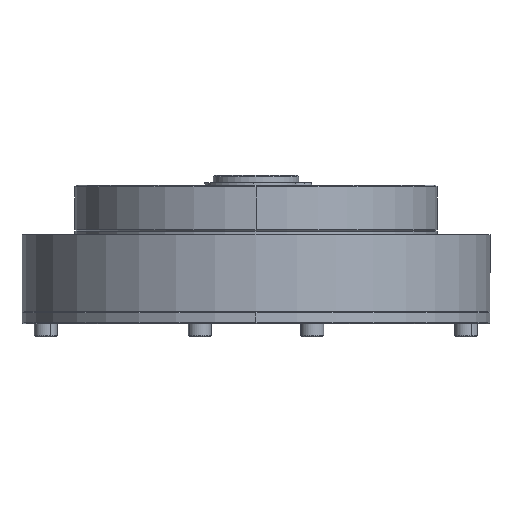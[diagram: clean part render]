
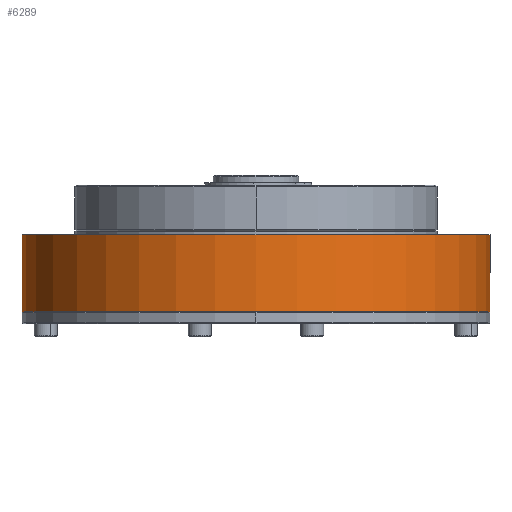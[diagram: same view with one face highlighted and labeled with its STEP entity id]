
A CAD part, left-side view. The second image highlights one B-rep face of the part: STEP entity #6289.
In plain terms, the highlighted cylindrical face has radius 71 mm (diameter 142 mm), a partial arc.
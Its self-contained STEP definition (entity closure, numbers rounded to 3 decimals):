
#359 = CIRCLE ( 'NONE', #10672, 71. ) ;
#1024 = DIRECTION ( 'NONE',  ( 0., 1., 0. ) ) ;
#1070 = DIRECTION ( 'NONE',  ( 0., 0., -1. ) ) ;
#1072 = LINE ( 'NONE', #3844, #1219 ) ;
#1130 = CYLINDRICAL_SURFACE ( 'NONE', #4484, 71. ) ;
#1142 = CARTESIAN_POINT ( 'NONE',  ( -22.001, 8.329, 80.1 ) ) ;
#1219 = VECTOR ( 'NONE', #4012, 1000. ) ;
#1672 = DIRECTION ( 'NONE',  ( 0., -1., 0. ) ) ;
#1973 = EDGE_CURVE ( 'NONE', #2282, #4675, #6143, .T. ) ;
#2031 = CARTESIAN_POINT ( 'NONE',  ( -22.001, 79.329, 103.5 ) ) ;
#2174 = AXIS2_PLACEMENT_3D ( 'NONE', #7991, #8006, #8090 ) ;
#2282 = VERTEX_POINT ( 'NONE', #2031 ) ;
#2346 = EDGE_CURVE ( 'NONE', #6104, #7641, #359, .T. ) ;
#2572 = EDGE_CURVE ( 'NONE', #6104, #4675, #6410, .T. ) ;
#2701 = CARTESIAN_POINT ( 'NONE',  ( -22.001, 8.329, 80.1 ) ) ;
#3740 = EDGE_CURVE ( 'NONE', #7641, #2282, #1072, .T. ) ;
#3808 = DIRECTION ( 'NONE',  ( 0., 0., 1. ) ) ;
#3844 = CARTESIAN_POINT ( 'NONE',  ( -22.001, 79.329, 80.1 ) ) ;
#4012 = DIRECTION ( 'NONE',  ( 0., 0., 1. ) ) ;
#4218 = DIRECTION ( 'NONE',  ( 0., 0., 1. ) ) ;
#4343 = CARTESIAN_POINT ( 'NONE',  ( -22.001, -62.671, 80.1 ) ) ;
#4484 = AXIS2_PLACEMENT_3D ( 'NONE', #2701, #3808, #1672 ) ;
#4603 = EDGE_LOOP ( 'NONE', ( #10292, #10809, #8971, #10566 ) ) ;
#4675 = VERTEX_POINT ( 'NONE', #8368 ) ;
#6104 = VERTEX_POINT ( 'NONE', #9996 ) ;
#6143 = CIRCLE ( 'NONE', #2174, 71. ) ;
#6289 = ADVANCED_FACE ( 'NONE', ( #8014 ), #1130, .T. ) ;
#6410 = LINE ( 'NONE', #4343, #6833 ) ;
#6833 = VECTOR ( 'NONE', #4218, 1000. ) ;
#7226 = CARTESIAN_POINT ( 'NONE',  ( -22.001, 79.329, 80.1 ) ) ;
#7641 = VERTEX_POINT ( 'NONE', #7226 ) ;
#7991 = CARTESIAN_POINT ( 'NONE',  ( -22.001, 8.329, 103.5 ) ) ;
#8006 = DIRECTION ( 'NONE',  ( 0., 0., 1. ) ) ;
#8014 = FACE_OUTER_BOUND ( 'NONE', #4603, .T. ) ;
#8090 = DIRECTION ( 'NONE',  ( 0., -1., 0. ) ) ;
#8368 = CARTESIAN_POINT ( 'NONE',  ( -22.001, -62.671, 103.5 ) ) ;
#8971 = ORIENTED_EDGE ( 'NONE', *, *, #2572, .T. ) ;
#9996 = CARTESIAN_POINT ( 'NONE',  ( -22.001, -62.671, 80.1 ) ) ;
#10292 = ORIENTED_EDGE ( 'NONE', *, *, #3740, .F. ) ;
#10566 = ORIENTED_EDGE ( 'NONE', *, *, #1973, .F. ) ;
#10672 = AXIS2_PLACEMENT_3D ( 'NONE', #1142, #1070, #1024 ) ;
#10809 = ORIENTED_EDGE ( 'NONE', *, *, #2346, .F. ) ;
